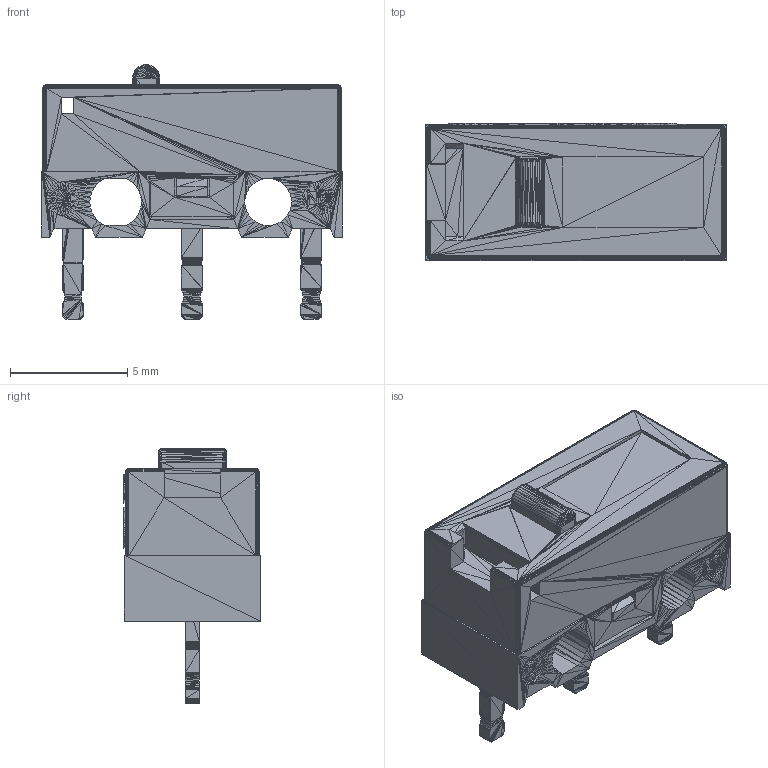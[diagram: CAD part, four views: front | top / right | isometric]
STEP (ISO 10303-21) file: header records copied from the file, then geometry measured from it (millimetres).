
FILE_DESCRIPTION(/* description */ (''),/* implementation_level */ '2;1');
FILE_NAME(/* name */ 'DM-DMG 3 L00P150.stp',/* time_stamp */ '2021-1-25T13:44:02.7905238',/* author */ ('knitter-switch'),/* organization */ (''),/* preprocessor_version */ 'InStep v2',/* originating_system */ 'InStep V2.3',/* authorisation */ '');
FILE_SCHEMA (('AUTOMOTIVE_DESIGN { 1 0 10303 214 1 1 1 1 }'));
Length unit declared in the file: centimetre
Products named in the file (1): None
Bounding box: 12.8 x 5.83 x 10.85 mm (x, y, z)
Volume: 188 mm3; surface area: 1002.1 mm2
Topology: 7 solids, 8 shells, 19937 faces, 29910 edges, 9962 vertices
Faces by surface type: plane 19937
Entity records: 306732 total; most frequent: ORIENTED_EDGE 59820, DIRECTION 43661, LINE 29910, EDGE_CURVE 29910, VECTOR 23722, AXIS2_PLACEMENT_3D 19938, EDGE_LOOP 19937, FACE_OUTER_BOUND 19937
